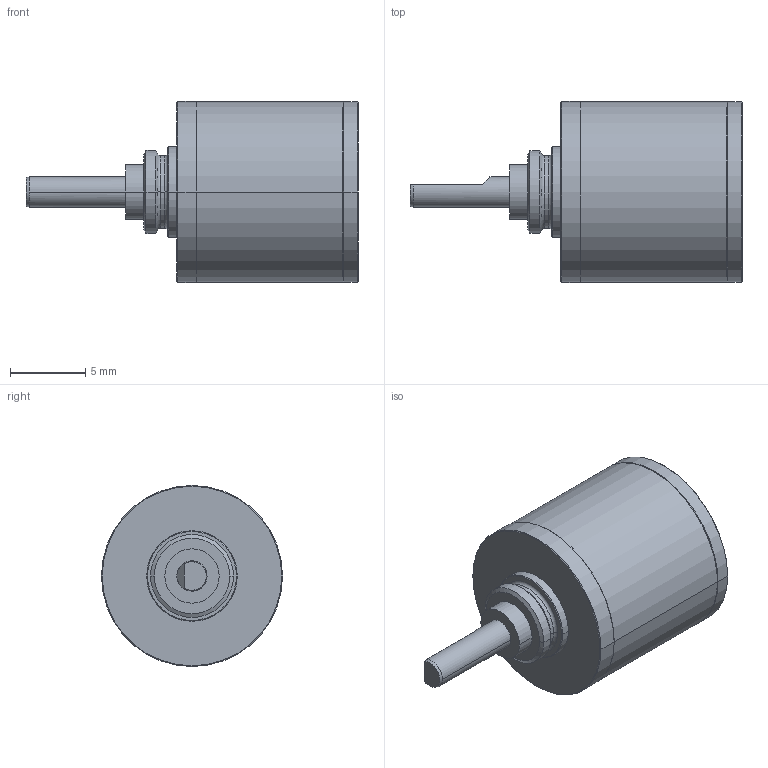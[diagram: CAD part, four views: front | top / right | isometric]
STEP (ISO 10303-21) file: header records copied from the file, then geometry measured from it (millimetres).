
FILE_DESCRIPTION((''),'2;1');
FILE_NAME('GS12A','2016-10-06T',('mmagpetk'),(''),'CREO PARAMETRIC BY PTC INC, 2016050','CREO PARAMETRIC BY PTC INC, 2016050','');
FILE_SCHEMA(('CONFIG_CONTROL_DESIGN'));
Length unit declared in the file: millimetre
Products named in the file (1): GS12A
Bounding box: 22 x 12 x 12 mm (x, y, z)
Volume: 1229 mm3; surface area: 1083.5 mm2
Topology: 1 solids, 1 shells, 94 faces, 201 edges, 122 vertices
Faces by surface type: cylinder 34, plane 25, cone 25, torus 10
Entity records: 3339 total; most frequent: CARTESIAN_POINT 504, DIRECTION 492, ORIENTED_EDGE 402, AXIS2_PLACEMENT_3D 211, PRESENTATION_STYLE_ASSIGNMENT 202, STYLED_ITEM 202, CURVE_STYLE 201, EDGE_CURVE 201
